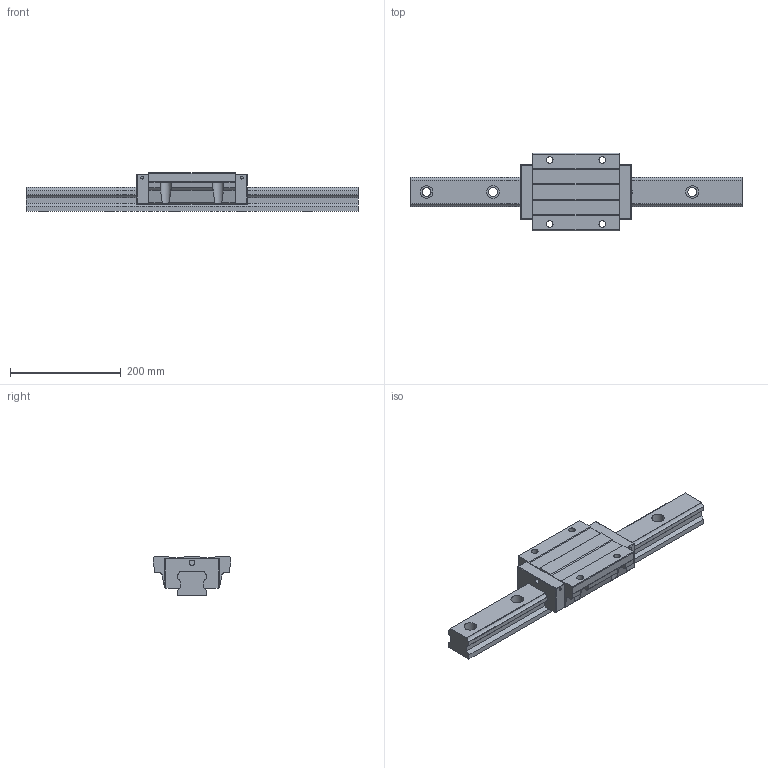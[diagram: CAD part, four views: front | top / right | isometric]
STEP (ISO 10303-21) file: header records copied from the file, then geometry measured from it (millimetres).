
FILE_DESCRIPTION (( 'STEP AP203' ), '1' );
FILE_NAME ('TRH55FE-XN.STEP', '2024-05-13T06:11:09', ( '' ), ( '' ), 'SwSTEP 2.0', 'SolidWorks 2022', '' );
FILE_SCHEMA (( 'CONFIG_CONTROL_DESIGN' ));
Length unit declared in the file: millimetre
Products named in the file (1): TRH55FE-XN
Bounding box: 600 x 140 x 70 mm (x, y, z)
Volume: 2098719.9 mm3; surface area: 238825.3 mm2
Topology: 2 solids, 2 shells, 219 faces, 596 edges, 388 vertices
Faces by surface type: plane 113, cylinder 102, sphere 4
Entity records: 7209 total; most frequent: CARTESIAN_POINT 1462, DIRECTION 1202, ORIENTED_EDGE 1184, EDGE_CURVE 592, AXIS2_PLACEMENT_3D 416, VERTEX_POINT 388, LINE 370, VECTOR 370
